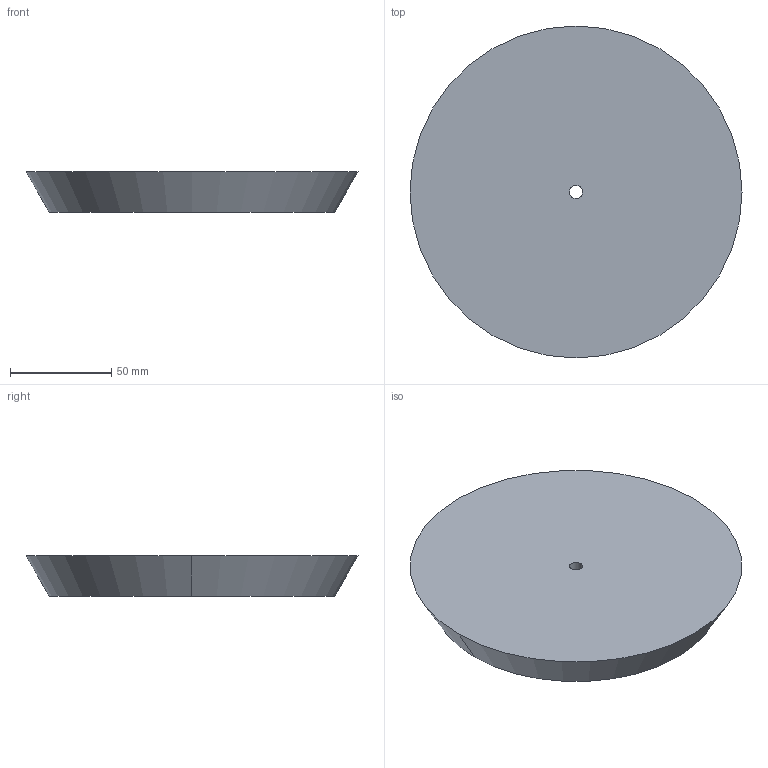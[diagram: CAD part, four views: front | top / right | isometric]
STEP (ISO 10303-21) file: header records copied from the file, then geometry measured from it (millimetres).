
FILE_DESCRIPTION(('CATIA V5 STEP Exchange'),'2;1');
FILE_NAME('C:\Users\andres.garcia\OneDrive - IQS\ASIGNATURAS\DAO\Controles\2223\c0\c1-SERRA_Claudia-tapon.stp','2023-02-03T08:22:06+00:00',('none'),('none'),'CATIA Version 5-6 Release 2013 SP6','CATIA V5 STEP AP203','none');
FILE_SCHEMA(('CONFIG_CONTROL_DESIGN'));
Length unit declared in the file: millimetre
Products named in the file (1): c1-SERRA_Claudia-tapon
Bounding box: 164 x 164 x 20 mm (x, y, z)
Volume: 365117.6 mm3; surface area: 48120.6 mm2
Topology: 1 solids, 1 shells, 6 faces, 12 edges, 8 vertices
Faces by surface type: cylinder 2, plane 2, cone 2
Entity records: 196 total; most frequent: CARTESIAN_POINT 26, ORIENTED_EDGE 24, DIRECTION 22, AXIS2_PLACEMENT_3D 14, EDGE_CURVE 12, CIRCLE 8, EDGE_LOOP 8, VERTEX_POINT 8
